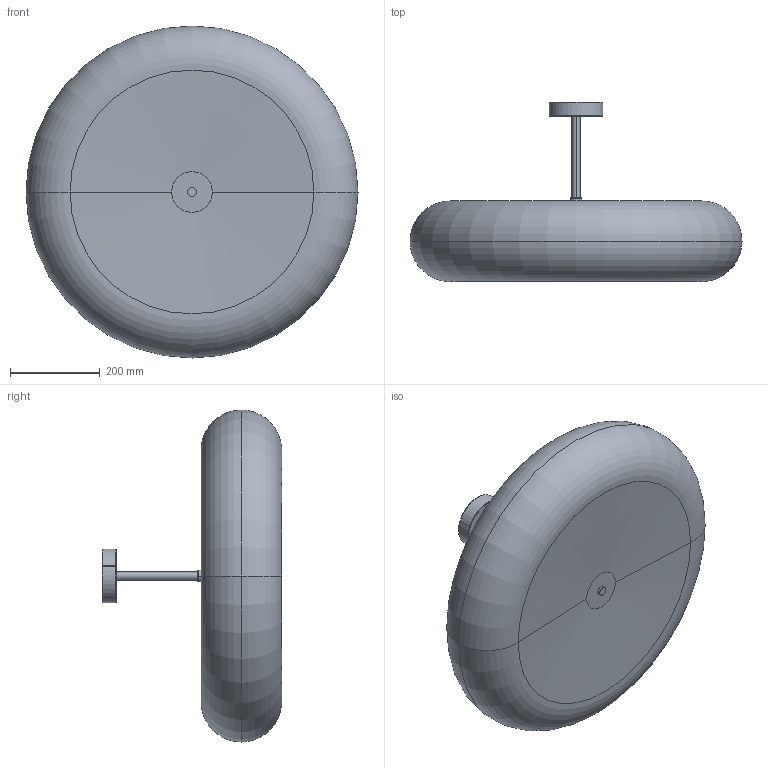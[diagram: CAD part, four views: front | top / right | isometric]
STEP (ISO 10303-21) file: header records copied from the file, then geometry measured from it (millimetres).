
FILE_DESCRIPTION(('Creo Elements/Direct Modeling STEP Export'),'2;1');
FILE_NAME('ARNO LED PENDELROHR 740.stp','2016-03-17T 8:21:03',(''),(''),'Creo Elements/Direct Modeling STEP processor for AP214 (Solid Model)','Creo Elements/Direct Modeling 18.1A 09-Jun-2012 (C) Parametric Technology GmbH','');
FILE_SCHEMA(('AUTOMOTIVE_DESIGN { 1 0 10303 214 1 1 1 1 }'));
Length unit declared in the file: millimetre
Products named in the file (2): ARNO_LED_PR; ARNO_LED_PR_740.1
Assembly tree (1 placements, depth 2):
  ARNO_LED_PR_740.1
    ARNO_LED_PR
Bounding box: 740 x 399.76 x 740 mm (x, y, z)
Volume: 67742685.2 mm3; surface area: 1150601.3 mm2
Topology: 1 solids, 1 shells, 38 faces, 74 edges, 44 vertices
Faces by surface type: cylinder 14, plane 8, cone 8, torus 8
Entity records: 907 total; most frequent: DIRECTION 158, ORIENTED_EDGE 148, CARTESIAN_POINT 134, EDGE_CURVE 74, AXIS2_PLACEMENT_3D 68, VERTEX_POINT 44, EDGE_LOOP 44, FACE_OUTER_BOUND 38
